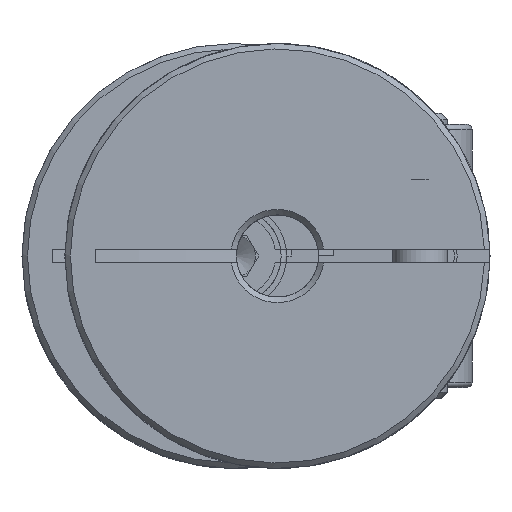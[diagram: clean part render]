
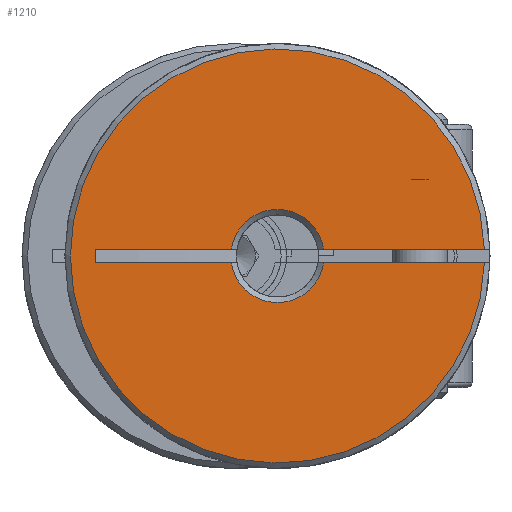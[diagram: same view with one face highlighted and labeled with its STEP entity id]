
A CAD part, left-side view. The second image highlights one B-rep face of the part: STEP entity #1210.
In plain terms, the highlighted planar face has unit normal (-1, 0, 0).
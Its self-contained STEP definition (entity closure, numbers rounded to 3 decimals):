
#1210 = ADVANCED_FACE( 'NONE', ( #1882 ), #1883, .F. );
#1882 = FACE_OUTER_BOUND( '', #2181, .T. );
#1883 = PLANE( '', #2182 );
#2181 = EDGE_LOOP( '', ( #2738, #2739, #2740, #2741, #2742, #2743, #2744, #2745 ) );
#2182 = AXIS2_PLACEMENT_3D( '', #2746, #2747, #2748 );
#2738 = ORIENTED_EDGE( '', *, *, #3178, .T. );
#2739 = ORIENTED_EDGE( '', *, *, #3183, .T. );
#2740 = ORIENTED_EDGE( '', *, *, #3169, .T. );
#2741 = ORIENTED_EDGE( '', *, *, #3184, .T. );
#2742 = ORIENTED_EDGE( '', *, *, #3163, .F. );
#2743 = ORIENTED_EDGE( '', *, *, #3161, .T. );
#2744 = ORIENTED_EDGE( '', *, *, #3167, .F. );
#2745 = ORIENTED_EDGE( '', *, *, #3147, .T. );
#2746 = CARTESIAN_POINT( '', ( 0., 1.5, 0. ) );
#2747 = DIRECTION( '', ( 1., 0., 0. ) );
#2748 = DIRECTION( '', ( 0., 1., 0. ) );
#3147 = EDGE_CURVE( 'NONE', #3560, #3564, #3566, .T. );
#3161 = EDGE_CURVE( 'NONE', #3592, #3590, #3593, .T. );
#3163 = EDGE_CURVE( 'NONE', #3592, #3595, #3596, .F. );
#3167 = EDGE_CURVE( 'NONE', #3560, #3590, #3601, .F. );
#3169 = EDGE_CURVE( 'NONE', #3604, #3605, #3606, .T. );
#3178 = EDGE_CURVE( 'NONE', #3564, #3618, #3620, .T. );
#3183 = EDGE_CURVE( 'NONE', #3618, #3604, #3626, .T. );
#3184 = EDGE_CURVE( 'NONE', #3605, #3595, #3627, .F. );
#3560 = VERTEX_POINT( 'NONE', #3830 );
#3564 = VERTEX_POINT( 'NONE', #3837 );
#3566 = LINE( '', #3839, #3840 );
#3590 = VERTEX_POINT( 'NONE', #3875 );
#3592 = VERTEX_POINT( 'NONE', #3880 );
#3593 = CIRCLE( '', #3881, 1.7 );
#3595 = VERTEX_POINT( 'NONE', #3886 );
#3596 = LINE( '', #3887, #3888 );
#3601 = LINE( '', #3897, #3898 );
#3604 = VERTEX_POINT( 'NONE', #3901 );
#3605 = VERTEX_POINT( 'NONE', #3902 );
#3606 = LINE( '', #3903, #3904 );
#3618 = VERTEX_POINT( 'NONE', #3924 );
#3620 = LINE( '', #3929, #3930 );
#3626 = CIRCLE( '', #3938, 1.7 );
#3627 = CIRCLE( '', #3939, 7.55 );
#3830 = CARTESIAN_POINT( '', ( 0., 6.624, -0.25 ) );
#3837 = CARTESIAN_POINT( '', ( 0., 6.624, 0.25 ) );
#3839 = CARTESIAN_POINT( '', ( 0., 6.624, -0.25 ) );
#3840 = VECTOR( '', #4032, 1000. );
#3875 = CARTESIAN_POINT( '', ( 0., 1.682, -0.25 ) );
#3880 = CARTESIAN_POINT( '', ( 0., -1.682, -0.25 ) );
#3881 = AXIS2_PLACEMENT_3D( '', #4054, #4055, #4056 );
#3886 = CARTESIAN_POINT( '', ( 0., -7.546, -0.25 ) );
#3887 = CARTESIAN_POINT( '', ( 0., -4.5, -0.25 ) );
#3888 = VECTOR( '', #4057, 1000. );
#3897 = CARTESIAN_POINT( '', ( 0., -4.5, -0.25 ) );
#3898 = VECTOR( '', #4062, 1000. );
#3901 = CARTESIAN_POINT( '', ( 0., -1.682, 0.25 ) );
#3902 = CARTESIAN_POINT( '', ( 0., -7.546, 0.25 ) );
#3903 = CARTESIAN_POINT( '', ( 0., 1.5, 0.25 ) );
#3904 = VECTOR( '', #4066, 1000. );
#3924 = CARTESIAN_POINT( '', ( 0., 1.682, 0.25 ) );
#3929 = CARTESIAN_POINT( '', ( 0., 1.5, 0.25 ) );
#3930 = VECTOR( '', #4078, 1000. );
#3938 = AXIS2_PLACEMENT_3D( '', #4087, #4088, #4089 );
#3939 = AXIS2_PLACEMENT_3D( '', #4090, #4091, #4092 );
#4032 = DIRECTION( '', ( 0., 0., 1. ) );
#4054 = CARTESIAN_POINT( '', ( 0., 0., 0. ) );
#4055 = DIRECTION( '', ( 1., 0., 0. ) );
#4056 = DIRECTION( '', ( 0., 0., -1. ) );
#4057 = DIRECTION( '', ( 0., 1., 0. ) );
#4062 = DIRECTION( '', ( 0., 1., 0. ) );
#4066 = DIRECTION( '', ( 0., -1., 0. ) );
#4078 = DIRECTION( '', ( 0., -1., 0. ) );
#4087 = CARTESIAN_POINT( '', ( 0., 0., 0. ) );
#4088 = DIRECTION( '', ( 1., 0., 0. ) );
#4089 = DIRECTION( '', ( 0., 0., -1. ) );
#4090 = CARTESIAN_POINT( '', ( 0., 0., 0. ) );
#4091 = DIRECTION( '', ( 1., 0., 0. ) );
#4092 = DIRECTION( '', ( 0., 0., -1. ) );
